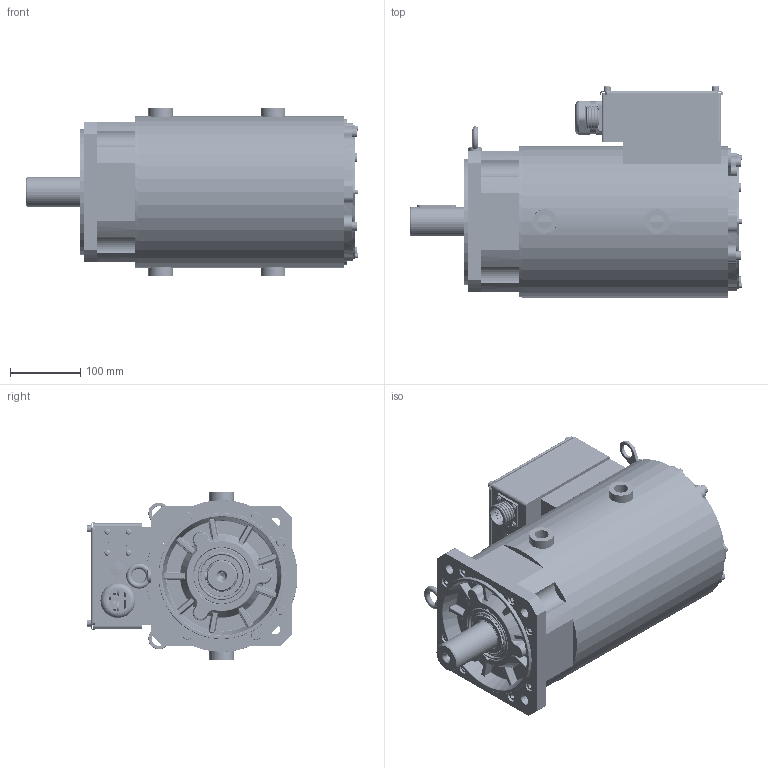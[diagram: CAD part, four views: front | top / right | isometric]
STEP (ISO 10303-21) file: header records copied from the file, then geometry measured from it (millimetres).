
FILE_DESCRIPTION((''),'2;1');
FILE_NAME('11101-02118_SW0003','2026-03-09T14:13:19',('admin'),(''),'CREO PARAMETRIC BY PTC INC, 2019080','CREO PARAMETRIC BY PTC INC, 2019080','');
FILE_SCHEMA(('CONFIG_CONTROL_DESIGN'));
Length unit declared in the file: millimetre
Products named in the file (1): 11101-02118_SW0003
Bounding box: 473 x 300.5 x 240 mm (x, y, z)
Surface area: 1742779.5 mm2 (no closed solid volume)
Topology: 0 solids, 179 shells, 2167 faces, 10073 edges, 7987 vertices
Faces by surface type: plane 886, cylinder 680, bspline 236, torus 179, cone 157, sphere 29
Entity records: 174775 total; most frequent: CARTESIAN_POINT 96214, DIRECTION 16242, ORIENTED_EDGE 14340, EDGE_CURVE 10053, VERTEX_POINT 7987, AXIS2_PLACEMENT_3D 5796, VECTOR 4650, LINE 4650
